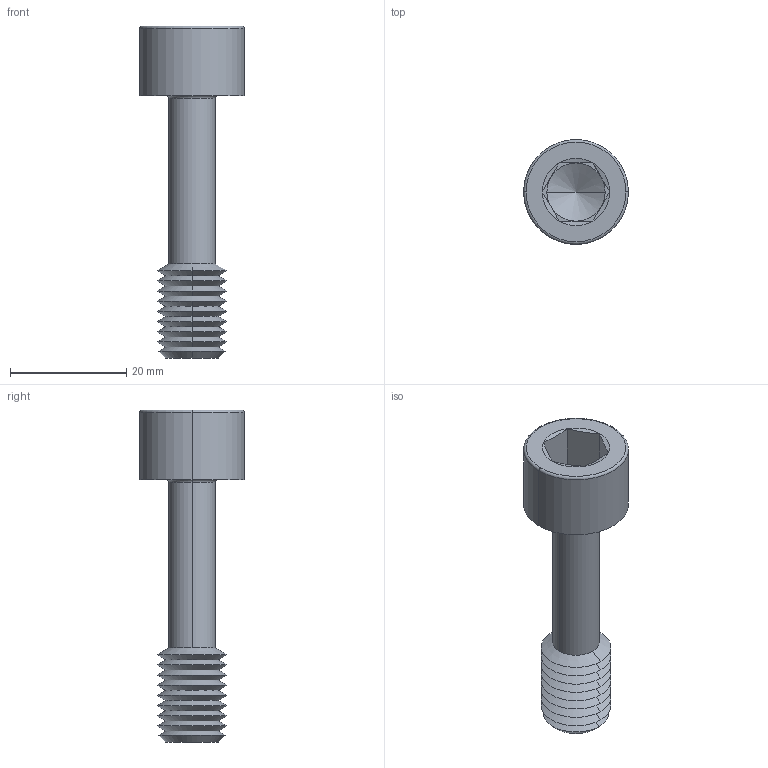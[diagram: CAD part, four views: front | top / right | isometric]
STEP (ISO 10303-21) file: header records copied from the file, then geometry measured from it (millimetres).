
FILE_DESCRIPTION (( 'STEP AP203' ), '1' );
FILE_NAME ('P0154.120-045-BL.step', '2024-06-17T11:36:42', ( '' ), ( '' ), 'SwSTEP 2.0', 'SolidWorks 2019', '' );
FILE_SCHEMA (( 'CONFIG_CONTROL_DESIGN' ));
Length unit declared in the file: millimetre
Products named in the file (1): P0154.120-045-BL
Bounding box: 18 x 18 x 57 mm (x, y, z)
Volume: 4945 mm3; surface area: 3299.7 mm2
Topology: 1 solids, 1 shells, 67 faces, 136 edges, 71 vertices
Faces by surface type: cone 44, plane 15, torus 4, cylinder 4
Entity records: 1791 total; most frequent: DIRECTION 332, CARTESIAN_POINT 303, ORIENTED_EDGE 268, AXIS2_PLACEMENT_3D 136, EDGE_CURVE 134, VERTEX_POINT 71, EDGE_LOOP 69, CIRCLE 68
